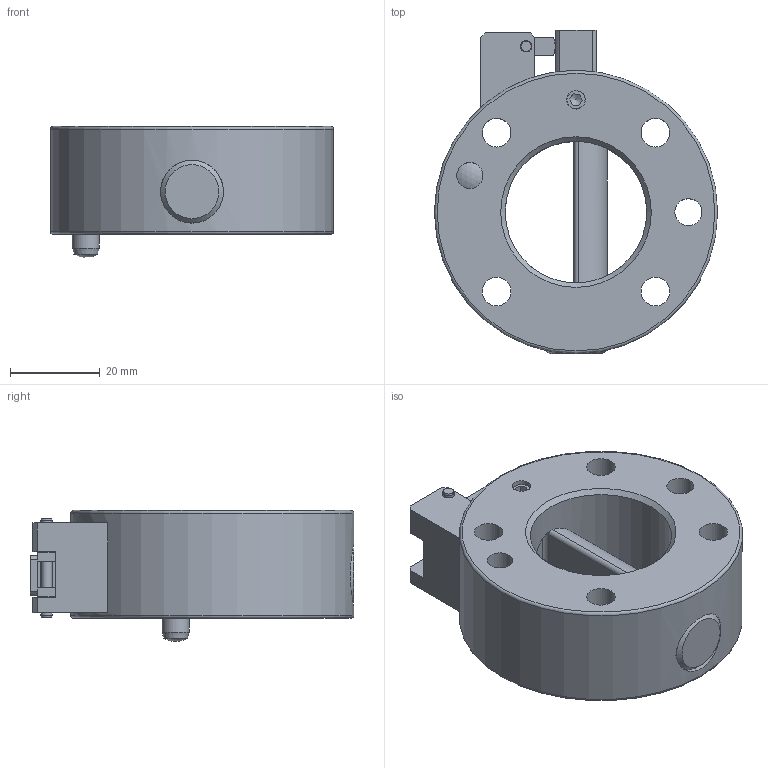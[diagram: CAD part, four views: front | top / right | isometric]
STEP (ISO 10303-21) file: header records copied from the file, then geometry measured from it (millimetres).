
FILE_DESCRIPTION((''),'2;1');
FILE_NAME('T:\CAD\Standard\Daten\3D-Datenbank\SWS\SWS063\Step-Daten\G-SWS063-2O-VS2.stp','2011-08-18T15:17:03',('Yvonne'),(''),'Autodesk Inventor 2011','Autodesk Inventor 2011','');
FILE_SCHEMA(('AUTOMOTIVE_DESIGN { 1 0 10303 214 1 1 1 1 }'));
Length unit declared in the file: millimetre
Products named in the file (1): Bauteil12
Bounding box: 63 x 72 x 29.17 mm (x, y, z)
Volume: 55492 mm3; surface area: 17882.3 mm2
Topology: 1 solids, 3 shells, 154 faces, 370 edges, 239 vertices
Faces by surface type: plane 73, cylinder 53, cone 14, torus 8, bspline 4, sphere 2
Full cylindrical faces by diameter (mm): 2.459 x2, 2.5 x5, 3 x2, 3.2 x2, 3.5 x1, 4.134 x3, 5.5 x2, 5.8 x1, 6 x4, 6.4 x4, 11 x4, 14 x2, 31.5 x1, 63 x1
Entity records: 4768 total; most frequent: CARTESIAN_POINT 1335, DIRECTION 655, ORIENTED_EDGE 588, EDGE_CURVE 294, AXIS2_PLACEMENT_3D 260, EDGE_LOOP 249, VERTEX_POINT 217, STYLED_ITEM 155
